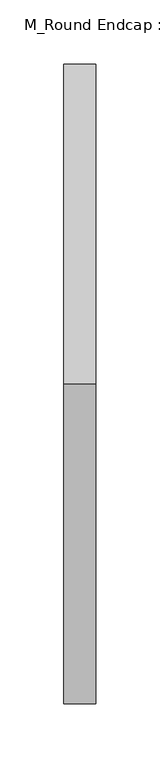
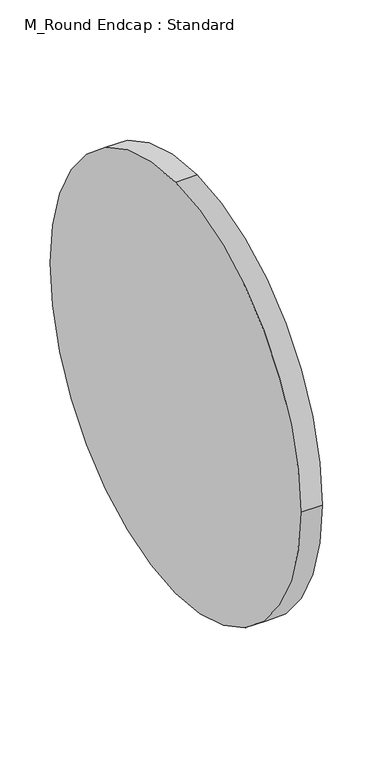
"""IFC4 building model written with IfcOpenShell, lengths in millimetres: duct fitting geometry, M_Round Endcap : Standard."""

from ifc_helpers import new_model, si_unit, point, frame, origin, origin_2d, place, context, project, spatial, circle_curve, trimmed, segment, composite_curve, outline, extrude, source, transform, mapped, element, save


def m_round_endcap_standard_1c45c55c(model_context):
    return source(origin(), model_context, "Body", "SweptSolid", [
        extrude(outline(composite_curve([segment(trimmed(circle_curve(origin_2d(), 250.0), [point((0.0, 250.0))], [point((250.0, 0.0))], False, "CARTESIAN"), True, "CONTINUOUS"), segment(trimmed(circle_curve(origin_2d(), 250.0), [point((250.0, 0.0))], [point((0.0, -250.0))], False, "CARTESIAN"), True, "CONTINUOUS"), segment(trimmed(circle_curve(origin_2d(), 250.0), [point((0.0, -250.0))], [point((-250.0, 0.0))], False, "CARTESIAN"), True, "CONTINUOUS"), segment(trimmed(circle_curve(origin_2d(), 250.0), [point((-250.0, 0.0))], [point((0.0, 250.0))], False, "CARTESIAN"), True, "CONTINUOUS")], self_intersect=False)), frame((0.0, 0.0, 0.0), z_axis=(1.0, 0.0, 0.0), x_axis=(0.0, 1.0, 0.0)), (0.0, 0.0, 1.0), 25.0),
    ])


if __name__ == "__main__":
    model = new_model("IFC4")
    model_context = context("Model", 3, world=origin())
    ifc_project = project(units=[si_unit("LENGTHUNIT", "METRE", prefix="MILLI")], contexts=[model_context])
    site = spatial("IfcSite", under=ifc_project)
    building = spatial("IfcBuilding", under=site)
    placement = place(None, origin())
    m_round_endcap_standard_shape = m_round_endcap_standard_1c45c55c(model_context)
    element("IfcDuctFitting", 1, ObjectType="M_Round Endcap : Standard", at=placement, inside=building, context=model_context, shape_type="MappedRepresentation", body=[
        mapped(m_round_endcap_standard_shape, transform((0.0, 0.0, 0.0), x_axis=(1.0, 0.0, 0.0), y_axis=(0.0, 1.0, 0.0), z_axis=(0.0, 0.0, 1.0))),
    ])
    save(model, "model.ifc")
